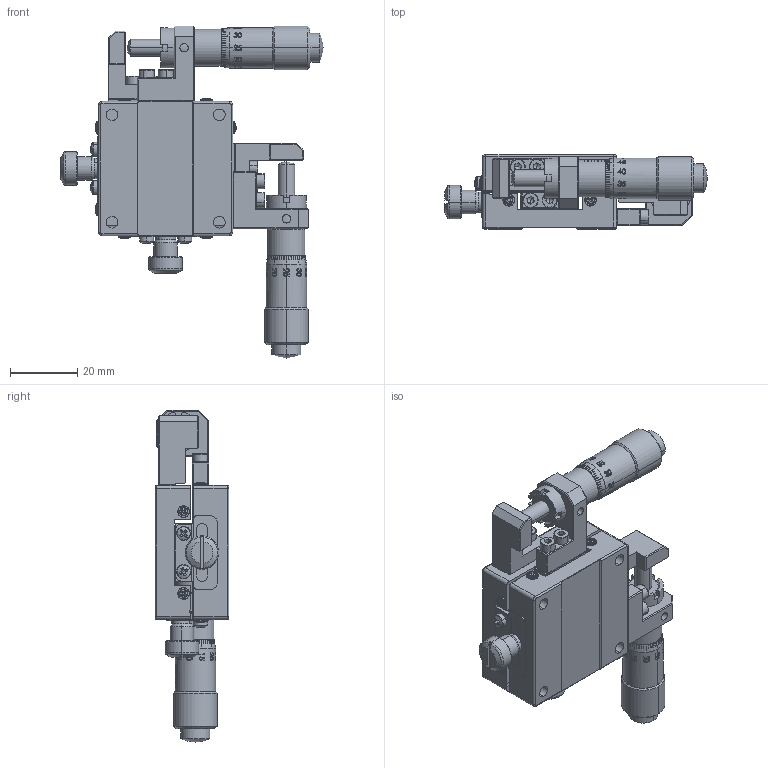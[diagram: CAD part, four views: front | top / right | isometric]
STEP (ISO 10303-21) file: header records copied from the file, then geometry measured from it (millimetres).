
FILE_DESCRIPTION (( 'STEP AP203' ), '1' );
FILE_NAME ('MYW40-S(«¬¿ý).STEP', '2013-05-18T07:19:41', ( '123' ), ( '' ), 'SwSTEP 2.0', 'SolidWorks 2013', '' );
FILE_SCHEMA (( 'CONFIG_CONTROL_DESIGN' ));
Length unit declared in the file: millimetre
Products named in the file (5): Group1^MYW40-S(型錄); Group2^MYW40-S(型錄); Group4^MYW40-S(型錄); Group3^MYW40-S(型錄); MYW40-S(型錄)
Assembly tree (4 placements, depth 2):
  MYW40-S(型錄)
    Group1^MYW40-S(型錄)
    Group2^MYW40-S(型錄)
    Group3^MYW40-S(型錄)
    Group4^MYW40-S(型錄)
Bounding box: 78.3 x 22 x 99 mm (x, y, z)
Volume: 49611.4 mm3; surface area: 24116.4 mm2
Topology: 4 solids, 4 shells, 2783 faces, 7339 edges, 4704 vertices
Faces by surface type: plane 1530, bspline 661, cylinder 348, cone 128, torus 84, sphere 32
Entity records: 136090 total; most frequent: CARTESIAN_POINT 70442, ORIENTED_EDGE 14630, DIRECTION 11885, EDGE_CURVE 7315, VERTEX_POINT 4704, AXIS2_PLACEMENT_3D 3967, LINE 3951, VECTOR 3951
